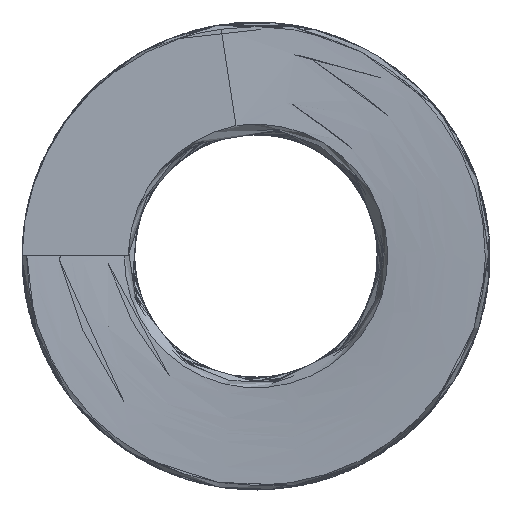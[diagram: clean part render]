
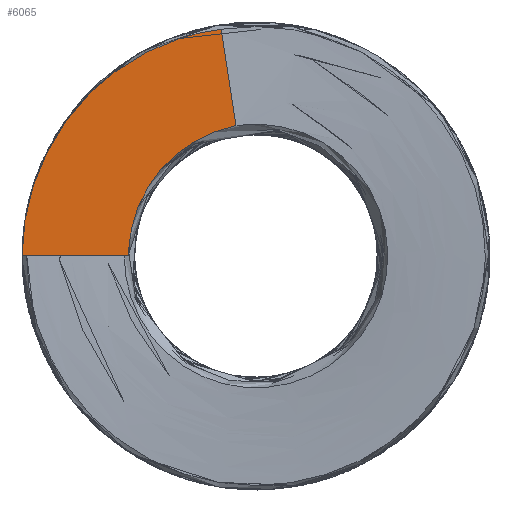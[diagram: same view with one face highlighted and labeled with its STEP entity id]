
A CAD part, left-side view. The second image highlights one B-rep face of the part: STEP entity #6065.
In plain terms, the highlighted planar face has unit normal (-1, 0, 0).
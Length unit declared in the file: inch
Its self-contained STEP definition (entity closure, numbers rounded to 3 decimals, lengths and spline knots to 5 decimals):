
#8 = CARTESIAN_POINT ( 'NONE',  ( 0., 0.33126, 0.08061 ) ) ;
#30 = CARTESIAN_POINT ( 'NONE',  ( 0., 0.30369, 0.15735 ) ) ;
#78 = CARTESIAN_POINT ( 'NONE',  ( 0., 0.05348, 0.34803 ) ) ;
#292 = CARTESIAN_POINT ( 'NONE',  ( 0., 0.57233, 0.24981 ) ) ;
#434 = CARTESIAN_POINT ( 'NONE',  ( 0., 0.31791, 0.53039 ) ) ;
#522 = CARTESIAN_POINT ( 'NONE',  ( 0., 0.20091, 0.28168 ) ) ;
#572 = CARTESIAN_POINT ( 'NONE',  ( 0., 0.05348, 0.34803 ) ) ;
#639 = VERTEX_POINT ( 'NONE', #4719 ) ;
#724 = VERTEX_POINT ( 'NONE', #3604 ) ;
#901 = AXIS2_PLACEMENT_3D ( 'NONE', #1551, #6947, #5871 ) ;
#998 = EDGE_CURVE ( 'NONE', #2435, #724, #6390, .T. ) ;
#1000 = CARTESIAN_POINT ( 'NONE',  ( 0., 0.16612, 0.59302 ) ) ;
#1063 = ORIENTED_EDGE ( 'NONE', *, *, #998, .F. ) ;
#1094 = CARTESIAN_POINT ( 'NONE',  ( 0., 0.07362, 0.34395 ) ) ;
#1384 = CARTESIAN_POINT ( 'NONE',  ( 0., 0.37956, 0.49003 ) ) ;
#1408 = CARTESIAN_POINT ( 'NONE',  ( 0., 0.33384, 0.52095 ) ) ;
#1527 = CARTESIAN_POINT ( 'NONE',  ( 0., 0.4969, 0.37497 ) ) ;
#1551 = CARTESIAN_POINT ( 'NONE',  ( 0., 0., 0. ) ) ;
#1595 = CARTESIAN_POINT ( 'NONE',  ( 0., 0.32606, 0.10022 ) ) ;
#1619 = CARTESIAN_POINT ( 'NONE',  ( 0., 0.0931, 0.33817 ) ) ;
#1828 = EDGE_CURVE ( 'NONE', #724, #4874, #2376, .T. ) ;
#1899 = CARTESIAN_POINT ( 'NONE',  ( 0., 0.62492, 0.03702 ) ) ;
#1923 = CARTESIAN_POINT ( 'NONE',  ( 0., 0.36469, 0.50075 ) ) ;
#2052 = B_SPLINE_CURVE_WITH_KNOTS ( 'NONE', 3,
 ( #572, #1094, #1619, #2092, #4357, #2139, #522, #2162, #3275, #5916, #3724, #30, #6456, #1595, #8, #6434, #6993, #4881 ),
 .UNSPECIFIED., .F., .F.,
 ( 4, 2, 2, 2, 2, 2, 2, 2, 4 ),
 ( 0., 0.00154, 0.00309, 0.00463, 0.00617, 0.00772, 0.00926, 0.01081, 0.01235 ),
 .UNSPECIFIED. ) ;
#2066 = CARTESIAN_POINT ( 'NONE',  ( 0., 0.51847, 0.34516 ) ) ;
#2090 = EDGE_CURVE ( 'NONE', #639, #2435, #2052, .T. ) ;
#2092 = CARTESIAN_POINT ( 'NONE',  ( 0., 0.13086, 0.32348 ) ) ;
#2139 = CARTESIAN_POINT ( 'NONE',  ( 0., 0.1844, 0.29352 ) ) ;
#2162 = CARTESIAN_POINT ( 'NONE',  ( 0., 0.23173, 0.25541 ) ) ;
#2376 = B_SPLINE_CURVE_WITH_KNOTS ( 'NONE', 3,
 ( #5728, #1899, #3158, #2621, #5164, #5679, #6758, #292, #4771, #3676, #2066, #1527, #4243, #4078, #4625, #1384, #1923, #1408, #434, #4221, #5302, #1000, #4794, #4336 ),
 .UNSPECIFIED., .F., .F.,
 ( 4, 2, 2, 2, 2, 2, 2, 2, 2, 2, 2, 4 ),
 ( 0., 0.00278, 0.00417, 0.00556, 0.00834, 0.00973, 0.01112, 0.01391, 0.0153, 0.01669, 0.01947, 0.02225 ),
 .UNSPECIFIED. ) ;
#2435 = VERTEX_POINT ( 'NONE', #3372 ) ;
#2621 = CARTESIAN_POINT ( 'NONE',  ( 0., 0.61148, 0.12729 ) ) ;
#2687 = EDGE_CURVE ( 'NONE', #4874, #639, #5621, .T. ) ;
#3013 = ORIENTED_EDGE ( 'NONE', *, *, #1828, .F. ) ;
#3037 = CARTESIAN_POINT ( 'NONE',  ( 0., 0.4825, 0. ) ) ;
#3158 = CARTESIAN_POINT ( 'NONE',  ( 0., 0.62144, 0.07345 ) ) ;
#3274 = FACE_OUTER_BOUND ( 'NONE', #5713, .T. ) ;
#3275 = CARTESIAN_POINT ( 'NONE',  ( 0., 0.24607, 0.24096 ) ) ;
#3372 = CARTESIAN_POINT ( 'NONE',  ( 0., 0.34003, 0. ) ) ;
#3604 = CARTESIAN_POINT ( 'NONE',  ( 0., 0.62497, 0. ) ) ;
#3676 = CARTESIAN_POINT ( 'NONE',  ( 0., 0.52851, 0.32985 ) ) ;
#3724 = CARTESIAN_POINT ( 'NONE',  ( 0., 0.28372, 0.19257 ) ) ;
#3941 = ORIENTED_EDGE ( 'NONE', *, *, #2090, .F. ) ;
#4078 = CARTESIAN_POINT ( 'NONE',  ( 0., 0.44902, 0.43096 ) ) ;
#4221 = CARTESIAN_POINT ( 'NONE',  ( 0., 0.2694, 0.55629 ) ) ;
#4243 = CARTESIAN_POINT ( 'NONE',  ( 0., 0.48533, 0.38951 ) ) ;
#4336 = CARTESIAN_POINT ( 'NONE',  ( 0., 0.09309, 0.60577 ) ) ;
#4357 = CARTESIAN_POINT ( 'NONE',  ( 0., 0.14916, 0.31455 ) ) ;
#4362 = CARTESIAN_POINT ( 'NONE',  ( 0., 0.09309, 0.60577 ) ) ;
#4625 = CARTESIAN_POINT ( 'NONE',  ( 0., 0.42253, 0.45603 ) ) ;
#4719 = CARTESIAN_POINT ( 'NONE',  ( 0., 0.05348, 0.34803 ) ) ;
#4771 = CARTESIAN_POINT ( 'NONE',  ( 0., 0.5565, 0.28276 ) ) ;
#4794 = CARTESIAN_POINT ( 'NONE',  ( 0., 0.12981, 0.60118 ) ) ;
#4874 = VERTEX_POINT ( 'NONE', #6486 ) ;
#4881 = CARTESIAN_POINT ( 'NONE',  ( 0., 0.34003, 0. ) ) ;
#5164 = CARTESIAN_POINT ( 'NONE',  ( 0., 0.60736, 0.1451 ) ) ;
#5302 = CARTESIAN_POINT ( 'NONE',  ( 0., 0.23582, 0.57057 ) ) ;
#5621 = B_SPLINE_CURVE_WITH_KNOTS ( 'NONE', 2,
 ( #4362, #6033, #78 ),
 .UNSPECIFIED., .F., .F.,
 ( 3, 3 ),
 ( 0., 0.00662 ),
 .UNSPECIFIED. ) ;
#5679 = CARTESIAN_POINT ( 'NONE',  ( 0., 0.59753, 0.18044 ) ) ;
#5713 = EDGE_LOOP ( 'NONE', ( #6805, #3013, #1063, #3941 ) ) ;
#5728 = CARTESIAN_POINT ( 'NONE',  ( 0., 0.62497, 0. ) ) ;
#5800 = PLANE ( 'NONE',  #901 ) ;
#5871 = DIRECTION ( 'NONE',  ( 0., -1., 0. ) ) ;
#5916 = CARTESIAN_POINT ( 'NONE',  ( 0., 0.27225, 0.20932 ) ) ;
#5964 = VECTOR ( 'NONE', #6782, 39.37008 ) ;
#6033 = CARTESIAN_POINT ( 'NONE',  ( 0., 0.07328, 0.4769 ) ) ;
#6065 = ADVANCED_FACE ( 'NONE', ( #3274 ), #5800, .T. ) ;
#6390 = LINE ( 'NONE', #3037, #5964 ) ;
#6434 = CARTESIAN_POINT ( 'NONE',  ( 0., 0.33827, 0.04077 ) ) ;
#6456 = CARTESIAN_POINT ( 'NONE',  ( 0., 0.3122, 0.13882 ) ) ;
#6486 = CARTESIAN_POINT ( 'NONE',  ( 0., 0.09309, 0.60577 ) ) ;
#6758 = CARTESIAN_POINT ( 'NONE',  ( 0., 0.59179, 0.19806 ) ) ;
#6782 = DIRECTION ( 'NONE',  ( 0., 1., 0. ) ) ;
#6805 = ORIENTED_EDGE ( 'NONE', *, *, #2687, .F. ) ;
#6947 = DIRECTION ( 'NONE',  ( -1., 0., 0. ) ) ;
#6993 = CARTESIAN_POINT ( 'NONE',  ( 0., 0.34008, 0.02055 ) ) ;
